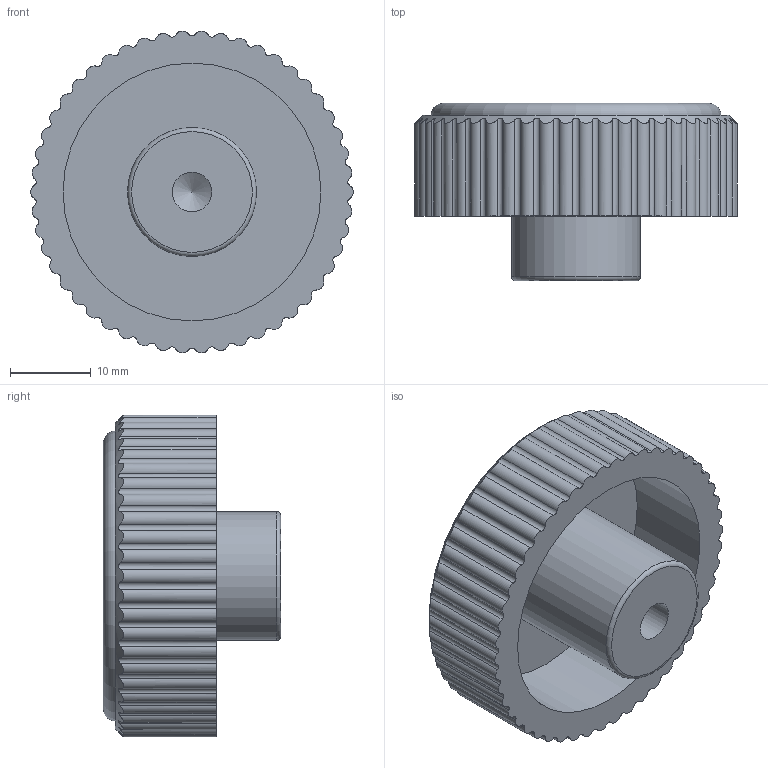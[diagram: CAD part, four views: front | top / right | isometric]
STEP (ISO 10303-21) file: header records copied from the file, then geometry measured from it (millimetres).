
FILE_DESCRIPTION(/* description */ (''),/* implementation_level */ '2;1');
FILE_NAME(/* name */ '\\SYNOLOGYNAS\web\db2\GKN_M\GKN-M6\도면\GKN-M6.stp',/* time_stamp */ '2024-05-01T13:36:10+09:00',/* author */ ('user'),/* organization */ (''),/* preprocessor_version */ 'ST-DEVELOPER v15.6',/* originating_system */ 'Autodesk Inventor 2015',/* authorisation */ '');
FILE_SCHEMA (('AUTOMOTIVE_DESIGN { 1 0 10303 214 3 1 1 }'));
Length unit declared in the file: millimetre
Products named in the file (1): GKN-M6
Bounding box: 40 x 22 x 39.92 mm (x, y, z)
Volume: 11126.6 mm3; surface area: 6628.6 mm2
Topology: 1 solids, 1 shells, 117 faces, 377 edges, 267 vertices
Faces by surface type: cylinder 103, plane 7, cone 4, torus 3
Full cylindrical faces by diameter (mm): 4.917 x1, 16 x1, 32 x1
Entity records: 5448 total; most frequent: CARTESIAN_POINT 2298, ORIENTED_EDGE 730, DIRECTION 566, EDGE_CURVE 365, VERTEX_POINT 265, AXIS2_PLACEMENT_3D 233, B_SPLINE_CURVE_WITH_KNOTS 150, EDGE_LOOP 132
